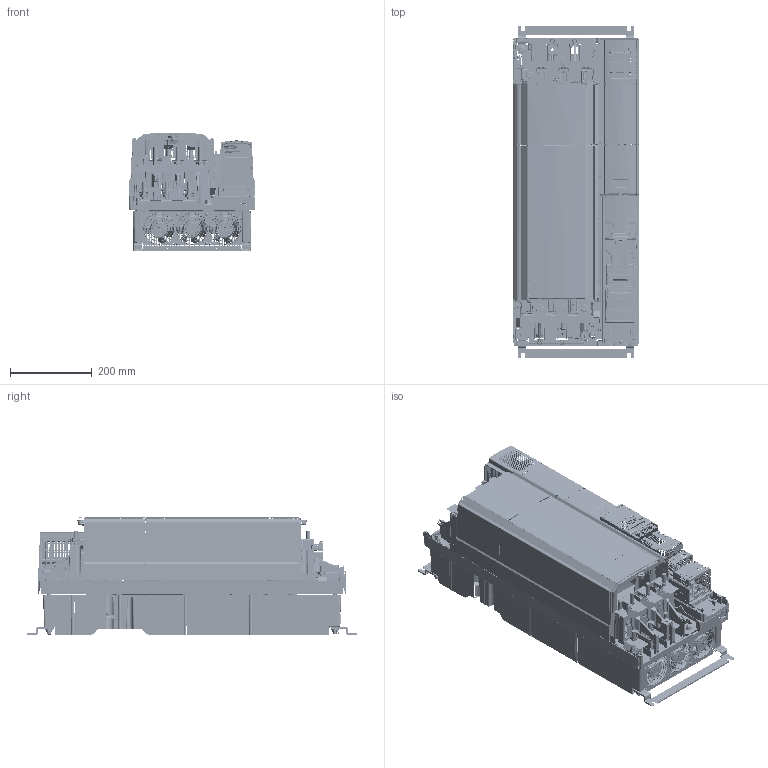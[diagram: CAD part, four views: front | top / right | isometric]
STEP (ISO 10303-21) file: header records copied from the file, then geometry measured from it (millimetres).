
FILE_DESCRIPTION((''),'2;1');
FILE_NAME('INTERNAL-GT8-F11','2013-08-29T',('P94061'),(''),'PRO/ENGINEER BY PARAMETRIC TECHNOLOGY CORPORATION, 2011490','PRO/ENGINEER BY PARAMETRIC TECHNOLOGY CORPORATION, 2011490','');
FILE_SCHEMA(('CONFIG_CONTROL_DESIGN'));
Length unit declared in the file: millimetre
Products named in the file (1): INTERNAL-GT8-F11
Bounding box: 310.02 x 811.61 x 290.1 mm (x, y, z)
Surface area: 2458694 mm2 (no closed solid volume)
Topology: 0 solids, 1449 shells, 3771 faces, 32454 edges, 29864 vertices
Faces by surface type: plane 2047, cylinder 1088, bspline 252, cone 190, torus 139, extrusion 34, sphere 21
Entity records: 340705 total; most frequent: CARTESIAN_POINT 130109, DIRECTION 35843, ORIENTED_EDGE 35414, EDGE_CURVE 32437, VERTEX_POINT 29864, VECTOR 18691, LINE 18657, B_SPLINE_CURVE_WITH_KNOTS 8723
